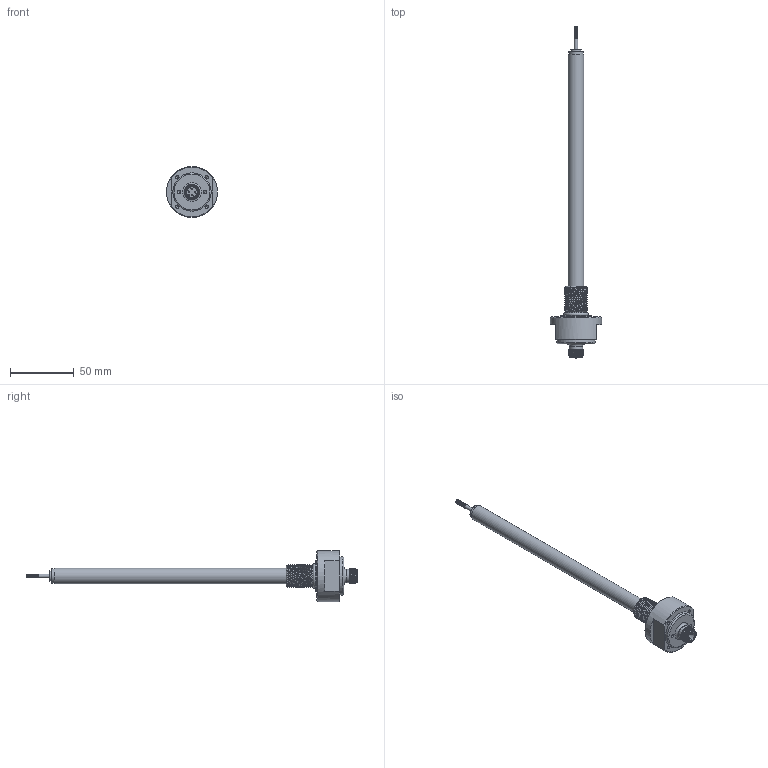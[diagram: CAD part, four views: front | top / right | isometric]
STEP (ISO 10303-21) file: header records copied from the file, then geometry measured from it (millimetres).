
FILE_DESCRIPTION( ( 'Unknown' ), '1' );
FILE_NAME( 'N:/Engineering/CAD/LVDT/HYD/Kunden-3D-Modell/SM50-HYD-18-S-M12.stp', 'Unknown', ( 'Unknown' ), ( 'Unknown' ), 'PSStep 17.0.49', 'Unknown', ' ' );
FILE_SCHEMA( ( 'AUTOMOTIVE_DESIGN { 1 0 10303 214 1 1 1 1 }' ) );
Length unit declared in the file: millimetre
Products named in the file (11): Einbaustecker_Waycon; Einbausteckverbinder_Waycon; Kontaktstift_M12; Assem1; Endkappe; Innenrohr_SM5-HYD; Kernverlängerung_SM5-HYD; SM-HYD-Flansch_M18_vereinfacht; O-Ring_15,4x2,1; Endkappe_HYD-KA_vereinfacht; Aussenrohr_SM50-HYD_vereinfacht
Assembly tree (13 placements, depth 3):
  Assem1
    Endkappe
    Innenrohr_SM5-HYD
    Kernverlängerung_SM5-HYD
    SM-HYD-Flansch_M18_vereinfacht
    O-Ring_15,4x2,1
    Endkappe_HYD-KA_vereinfacht
    Aussenrohr_SM50-HYD_vereinfacht
    Einbaustecker_Waycon
      Einbausteckverbinder_Waycon
      Kontaktstift_M12  x4
Bounding box: 40 x 260.2 x 40 mm (x, y, z)
Volume: 51753.1 mm3; surface area: 23277.3 mm2
Topology: 12 solids, 12 shells, 261 faces, 583 edges, 383 vertices
Faces by surface type: plane 122, cylinder 68, cone 37, extrusion 18, bspline 8, torus 8
Full cylindrical faces by diameter (mm): 0.5 x4, 1 x12, 1.2 x8, 1.8 x4, 2.013 x1, 2.4 x1, 2.5 x4, 2.6 x2, 3 x1, 4 x1, 6 x2, 8 x2, 8.2 x1, 8.3 x1, 9 x1, 9.35 x1, 9.55 x1, 10 x1, 10.05 x1, 10.5 x1, 10.6 x2, 11 x2, 12 x2, 15.8 x1, 22.5 x1, 24 x2, 30 x1, 40 x1
Entity records: 14294 total; most frequent: CARTESIAN_POINT 7955, DIRECTION 870, ORIENTED_EDGE 796, EDGE_CURVE 398, EDGE_LOOP 331, AXIS2_PLACEMENT_3D 327, VERTEX_POINT 309, FACE_OUTER_BOUND 264
